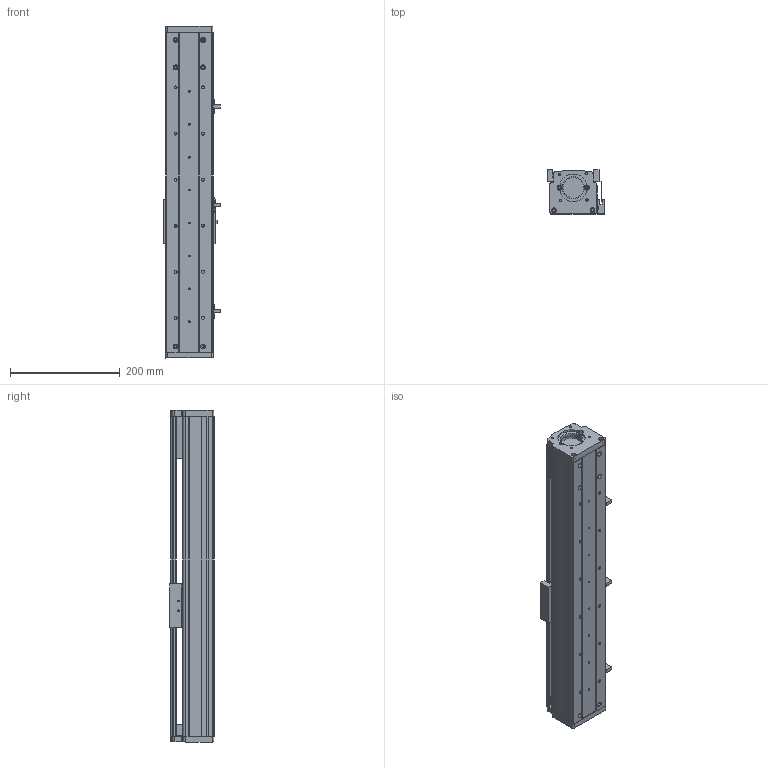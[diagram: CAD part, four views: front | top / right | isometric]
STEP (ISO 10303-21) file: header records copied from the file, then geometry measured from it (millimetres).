
FILE_DESCRIPTION (( 'STEP AP214' ), '1' );
FILE_NAME ('CF86-C-350-FW.STEP', '2020-01-15T07:52:55', ( '微软用户' ), ( '微软中国' ), 'SwSTEP 2.0', 'SolidWorks 2016', '' );
FILE_SCHEMA (( 'AUTOMOTIVE_DESIGN' ));
Length unit declared in the file: millimetre
Products named in the file (12): 嫖萇羲壽; 75-86-95癹弇羲壽覜茼え; 86-60侜督萇儂釱(蜊輛); CF86賑輸; 02 86盓傅釱; 01 86嘐隅釱; EGW15CA賑輸; EGR15絳寢-350; 86臏倰第-350; 86裔啣-350; 86耜啣; CF86-C-350-FW
Assembly tree (13 placements, depth 2):
  CF86-C-350-FW
    86耜啣
    86裔啣-350
    86臏倰第-350
    EGR15絳寢-350
    EGW15CA賑輸
    01 86嘐隅釱
    02 86盓傅釱
    CF86賑輸
    86-60侜督萇儂釱(蜊輛)
    75-86-95癹弇羲壽覜茼え
    嫖萇羲壽  x3
Bounding box: 103.85 x 81 x 605 mm (x, y, z)
Volume: 1746519.8 mm3; surface area: 564690.5 mm2
Topology: 13 solids, 13 shells, 672 faces, 1804 edges, 1200 vertices
Faces by surface type: plane 355, cylinder 317
Entity records: 21442 total; most frequent: CARTESIAN_POINT 3632, DIRECTION 3518, ORIENTED_EDGE 3320, EDGE_CURVE 1660, AXIS2_PLACEMENT_3D 1262, VERTEX_POINT 1104, LINE 994, VECTOR 994
